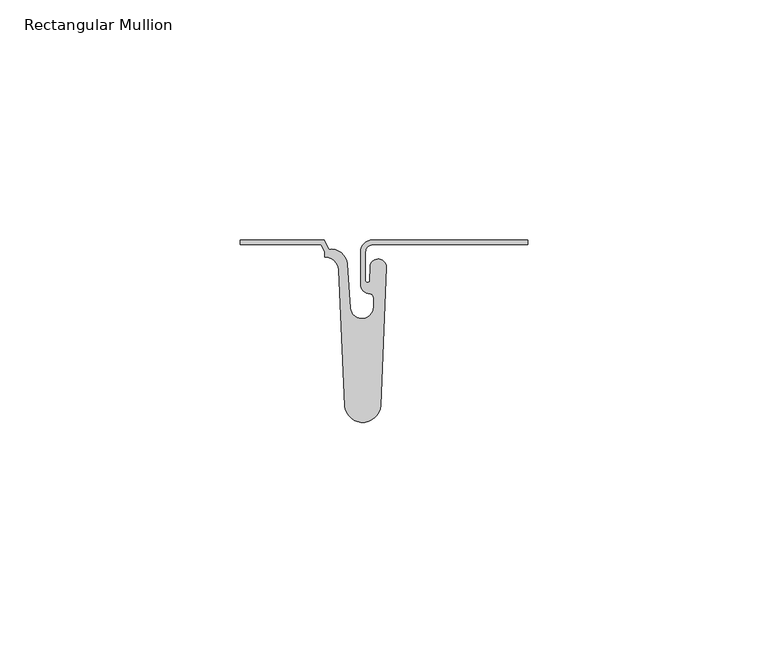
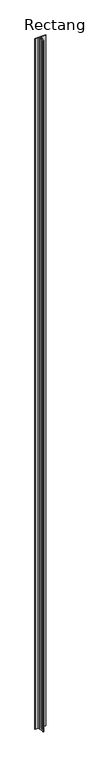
"""IFC4 building model written with IfcOpenShell, lengths in millimetres: member geometry, Rectangular Mullion : Stratco_Hiland_Tray Nailstrip_38mm Rib_Underlap Tray Starter."""

from ifc_helpers import new_model, si_unit, point, frame, frame_2d, origin, place, context, project, spatial, polyline, circle_curve, trimmed, segment, composite_curve, outline, extrude, source, transform, mapped, element, save


def rectangular_mullion_3a94c3c1(model_context):
    return source(origin(), model_context, "Body", "SweptSolid", [
        extrude(outline(composite_curve([segment(polyline([(-29.500488, -5.6708248), (-30.6318313, -34.4778353)]), True, "CONTINUOUS"), segment(trimmed(circle_curve(frame_2d((-34.3832645, -34.2093368)), 3.7610294), [point((-30.6318313, -34.4778353))], [point((-38.1326964, -34.504468))], False, "CARTESIAN"), True, "CONTINUOUS"), segment(polyline([(-38.1326964, -34.504468), (-39.3384383, -6.1863733)]), True, "CONTINUOUS"), segment(trimmed(circle_curve(frame_2d((-42.3220003, -6.4999938)), 3.0), [point((-39.3384383, -6.1863733))], [point((-42.3280845, -3.5))], True, "CARTESIAN"), True, "CONTINUOUS"), segment(polyline([(-42.3280845, -3.5), (-42.3280845, -2.5021141), (-43.0095342, -0.9715531), (-59.8932409, -0.9715531), (-59.8932409, 0.0284469), (-42.3601266, 0.0284469), (-41.4885774, -1.9290846)]), True, "CONTINUOUS"), segment(trimmed(circle_curve(frame_2d((-40.9491206, -5.2176529)), 3.3325208), [point((-41.4885774, -1.9290846))], [point((-37.62526, -4.9775568))], False, "CARTESIAN"), True, "CONTINUOUS"), segment(polyline([(-37.62526, -4.9775568), (-36.9648938, -14.1195889)]), True, "CONTINUOUS"), segment(trimmed(circle_curve(frame_2d((-34.54656, -13.9449093)), 2.4246342), [point((-36.9648938, -14.1195889))], [point((-32.1219258, -13.9449093))], True, "CARTESIAN"), True, "CONTINUOUS"), segment(polyline([(-32.1219258, -13.9449093), (-32.1219258, -12.0272941)]), True, "CONTINUOUS"), segment(trimmed(circle_curve(frame_2d((-33.0223261, -12.0272941)), 0.9004003), [point((-32.1219258, -12.0272941))], [point((-32.8337382, -11.1468651))], True, "CARTESIAN"), True, "CONTINUOUS"), segment(trimmed(circle_curve(frame_2d((-32.8879394, -9.2101777)), 1.9374457), [point((-32.8337382, -11.1468651))], [point((-34.8253851, -9.2101777))], False, "CARTESIAN"), True, "CONTINUOUS"), segment(polyline([(-34.8253851, -9.2101777), (-34.8253851, -2.4688537)]), True, "CONTINUOUS"), segment(trimmed(circle_curve(frame_2d((-32.3280845, -2.4688537)), 2.4973006), [point((-34.8253851, -2.4688537))], [point((-32.3280845, 0.0284469))], False, "CARTESIAN"), True, "CONTINUOUS"), segment(polyline([(-32.3280845, 0.0284469), (0.0, 0.0284469), (0.0, -0.9715531), (-32.3280845, -0.9715531)]), True, "CONTINUOUS"), segment(trimmed(circle_curve(frame_2d((-32.3280845, -2.4686698)), 1.4971167), [point((-32.3280845, -0.9715531))], [point((-33.8252012, -2.4686698))], True, "CARTESIAN"), True, "CONTINUOUS"), segment(polyline([(-33.8252012, -2.4686698), (-33.8252012, -8.4147659)]), True, "CONTINUOUS"), segment(trimmed(circle_curve(frame_2d((-33.3726014, -8.4147659)), 0.4525998), [point((-33.8252012, -8.4147659))], [point((-32.9202138, -8.428624))], True, "CARTESIAN"), True, "CONTINUOUS"), segment(polyline([(-32.9202138, -8.428624), (-32.8327337, -5.5692832)]), True, "CONTINUOUS"), segment(trimmed(circle_curve(frame_2d((-31.1666171, -5.620257)), 1.6668962), [point((-32.8327337, -5.5692832))], [point((-29.500488, -5.6708248))], False, "CARTESIAN"), True, "CONTINUOUS")], self_intersect=False)), frame((0.0, 0.0, -4000.0), z_axis=(0.0, 0.0, 1.0), x_axis=(1.0, 0.0, 0.0)), (0.0, 0.0, 1.0), 4000.0),
    ])


if __name__ == "__main__":
    model = new_model("IFC4")
    model_context = context("Model", 3, world=origin())
    ifc_project = project(units=[si_unit("LENGTHUNIT", "METRE", prefix="MILLI")], contexts=[model_context])
    site = spatial("IfcSite", under=ifc_project)
    building = spatial("IfcBuilding", under=site)
    placement = place(None, origin())
    rectangular_mullion_shape = rectangular_mullion_3a94c3c1(model_context)
    element("IfcMember", 1, ObjectType="Rectangular Mullion : Stratco_Hiland_Tray Nailstrip_38mm Rib_Underlap Tray Starter", at=placement, inside=building, context=model_context, shape_type="MappedRepresentation", body=[
        mapped(rectangular_mullion_shape, transform((0.0, 0.0, 0.0), x_axis=(1.0, 0.0, 0.0), y_axis=(0.0, 1.0, 0.0), z_axis=(0.0, 0.0, 1.0))),
    ])
    save(model, "model.ifc")
